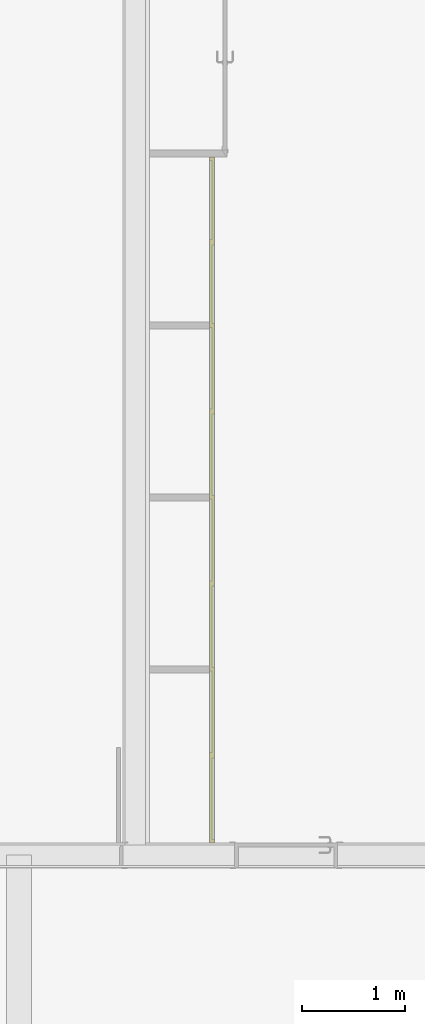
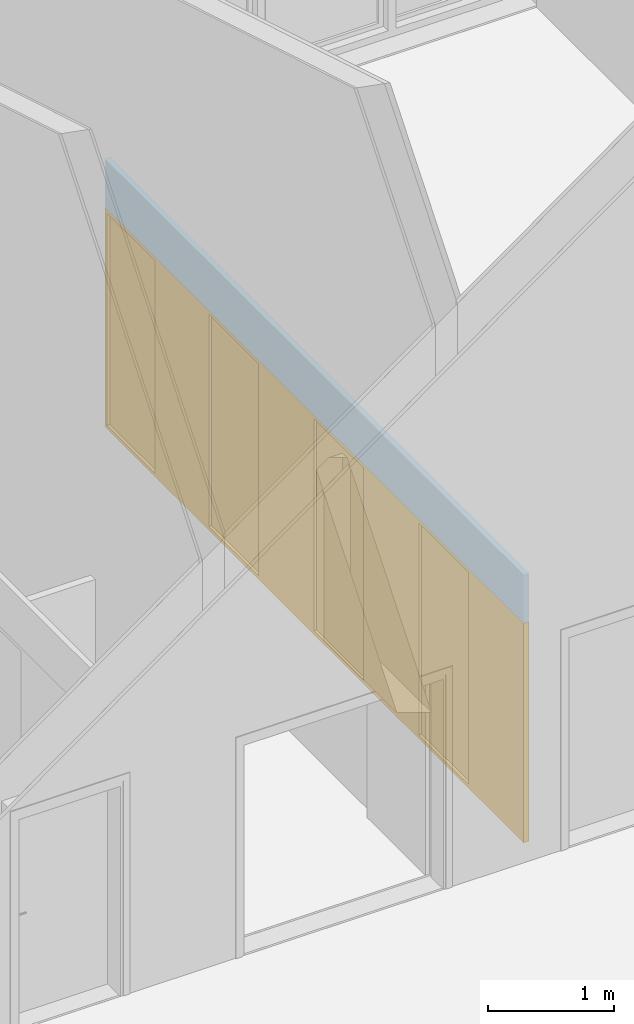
# One storey, part 9 of 34: 1 window, 1 opening, plus 1 element that does not belong to this part.
"""IFC2X3 building model written with IfcOpenShell, lengths in metres."""

from ifc_helpers import new_model, entity, si_unit, converted_unit, derived_unit, money_unit, direction, frame, origin_with_axes, origin_2d_with_axis, place, context, subcontext, project, spatial, polyline, rectangle, outline, extrude, faceted_brep, material, layer, layer_set, layer_usage, type_object, element, fill, save


model = new_model("IFC2X3")

# Units and contexts
model_context = context("Model", 3, precision=1e-05, world=origin_with_axes(), true_north=direction((0.0, 1.0)))
body_context = subcontext(model_context, "Body", "Model", "MODEL_VIEW")
ifc_project = project(units=[si_unit("LENGTHUNIT", "METRE"), si_unit("AREAUNIT", "SQUARE_METRE"), si_unit("VOLUMEUNIT", "CUBIC_METRE"), converted_unit("PLANEANGLEUNIT", "DEGREE", entity("IfcPlaneAngleMeasure", 0.0174532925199), si_unit("PLANEANGLEUNIT", "RADIAN"), dimensions=[0, 0, 0, 0, 0, 0, 0]), money_unit("CHF"), converted_unit("TIMEUNIT", "Year", entity("IfcTimeMeasure", 31556926.0), si_unit("TIMEUNIT", "SECOND"), dimensions=[0, 0, 1, 0, 0, 0, 0]), si_unit("MASSUNIT", "GRAM", prefix="KILO"), si_unit("THERMODYNAMICTEMPERATUREUNIT", "DEGREE_CELSIUS"), si_unit("LUMINOUSINTENSITYUNIT", "LUMEN"), si_unit("ENERGYUNIT", "JOULE", prefix="MEGA"), derived_unit("THERMALCONDUCTANCEUNIT", [(si_unit("POWERUNIT", "WATT"), 1), (si_unit("LENGTHUNIT", "METRE"), -1), (si_unit("THERMODYNAMICTEMPERATUREUNIT", "KELVIN"), -1)]), derived_unit("SPECIFICHEATCAPACITYUNIT", [(si_unit("ENERGYUNIT", "JOULE"), 1), (si_unit("MASSUNIT", "GRAM", prefix="KILO"), -1), (si_unit("THERMODYNAMICTEMPERATUREUNIT", "KELVIN"), -1)]), derived_unit("MASSDENSITYUNIT", [(si_unit("MASSUNIT", "GRAM", prefix="KILO"), 1), (si_unit("VOLUMEUNIT", "CUBIC_METRE"), -1)])], contexts=[model_context])

# Site, building, storey
site_placement = place(None, origin_with_axes())
site = spatial("IfcSite", under=ifc_project, at=site_placement, Name="Site", CompositionType="ELEMENT")
building_placement = place(site_placement, origin_with_axes())
building = spatial("IfcBuilding", under=site, at=building_placement, Name="Bâtiment", CompositionType="ELEMENT")
storey_placement = place(building_placement, origin_with_axes())
storey = spatial("IfcBuildingStorey", under=building, at=storey_placement, Name="Rez-de-chaussée", CompositionType="ELEMENT", Elevation=0.0)

# Wall, opening, window
ifc_material_1 = material(Name="Finition int - Plaque de plâtre")
ifc_layer_1 = layer(ifc_material_1, 0.013, ventilated="UNKNOWN")
ifc_material_2 = material(Name="Isolation - Laine de verre")
ifc_layer_2 = layer(ifc_material_2, 0.024, ventilated="UNKNOWN")
ifc_layer_3 = layer(ifc_material_1, 0.013, ventilated="UNKNOWN")
ifc_layer_set = layer_set([ifc_layer_1, ifc_layer_2, ifc_layer_3], Name="Cloison 50")
ifc_layer_usage = layer_usage(ifc_layer_set, "AXIS2", "NEGATIVE", 0.05)
wall_type = type_object("IfcWallType", Name="Cloison 50 50", PredefinedType="NOTDEFINED")
wall_placement = place(storey_placement, frame((26.1994697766, 21.78, 0.0), z_axis=(0.0, 0.0, 1.0), x_axis=(0.0, -1.0, 0.0)))
wall = element("IfcWallStandardCase", 1, at=wall_placement, inside=storey, type_object=wall_type, material=ifc_layer_usage, Name="MUR_EXT-006", context=body_context, shape_type="SweptSolid", body=[
    extrude(outline(polyline([(0.0, 0.0), (6.66, 0.0), (6.66, 0.05), (0.0, 0.05), (0.0, 0.0)])), origin_with_axes(), (0.0, 0.0, 1.0), 2.6),
])
opening_placement = place(wall_placement, frame((3.33, 0.0, 0.0), z_axis=(0.0, 0.0, 1.0), x_axis=(1.0, 0.0, 0.0)))
opening = element("IfcOpeningElement", 2, at=opening_placement, cuts=wall, Name="Portes placard couliisantes 4x2panneaux", context=body_context, shape_type="SweptSolid", body=[
    extrude(rectangle(XDim=6.66, YDim=2.13, at=origin_2d_with_axis()), frame((0.0, -0.05, 1.065), z_axis=(0.0, -1.0, 0.0), x_axis=(1.0, 0.0, 0.0)), (0.0, 0.0, -1.0), 0.15),
])
window_style = type_object("IfcWindowStyle", Name="Fenêtre horizontale à châssis multiples 26", ConstructionType="NOTDEFINED", OperationType="USERDEFINED", ParameterTakesPrecedence=False, Sizeable=False)
window_placement = place(opening_placement, frame((3.33, 0.0, 0.0), z_axis=(0.0, 0.0, 1.0), x_axis=(-1.0, 0.0, 0.0)))
window = element("IfcWindow", 3, at=window_placement, inside=storey, type_object=window_style, Name="Portes placard couliisantes 4x2panneaux", ObjectType="WINDOW", OverallHeight=2.13, OverallWidth=6.66, context=body_context, shape_type="Brep", body=[
    faceted_brep([(6.625, -0.05, 2.095), (6.66, -0.05, 2.095), (6.66, 0.0, 2.095), (6.625, 0.0, 2.095), (6.625, -0.05, 0.035), (6.66, -0.05, 0.035), (6.66, 0.0, 0.035), (6.625, 0.0, 0.035)], [[[0, 1, 2, 3]], [[0, 4, 5, 1]], [[1, 5, 6, 2]], [[3, 2, 6, 7]], [[4, 0, 3, 7]], [[5, 4, 7, 6]]]),
    faceted_brep([(0.035, -0.05, 0.035), (0.0, -0.05, 0.035), (0.0, 0.0, 0.035), (0.035, 0.0, 0.035), (0.035, -0.05, 2.095), (0.0, -0.05, 2.095), (0.0, 0.0, 2.095), (0.035, 0.0, 2.095)], [[[0, 1, 2, 3]], [[0, 4, 5, 1]], [[1, 5, 6, 2]], [[3, 2, 6, 7]], [[4, 0, 3, 7]], [[5, 4, 7, 6]]]),
    faceted_brep([(0.035, -0.05, 2.095), (0.0, -0.05, 2.095), (0.0, 0.0, 2.095), (0.035, 0.0, 2.095), (1.6675, -0.05, 2.095), (1.7025, -0.05, 2.095), (3.3375, -0.05, 2.095), (3.3725, -0.05, 2.095), (5.0075, -0.05, 2.095), (5.0425, -0.05, 2.095), (6.625, -0.05, 2.095), (6.66, -0.05, 2.095), (6.66, -0.05, 2.13), (0.0, -0.05, 2.13), (0.0, 0.0, 2.13), (6.66, 0.0, 2.13), (6.66, 0.0, 2.095), (6.625, 0.0, 2.095), (5.0425, 0.0, 2.095), (5.0075, 0.0, 2.095), (3.3725, 0.0, 2.095), (3.3375, 0.0, 2.095), (1.7025, 0.0, 2.095), (1.6675, 0.0, 2.095)], [[[0, 1, 2, 3]], [[0, 4, 5, 6, 7, 8, 9, 10, 11, 12, 13, 1]], [[1, 13, 14, 2]], [[3, 2, 14, 15, 16, 17, 18, 19, 20, 21, 22, 23]], [[4, 0, 3, 23]], [[5, 4, 23, 22]], [[6, 5, 22, 21]], [[7, 6, 21, 20]], [[8, 7, 20, 19]], [[9, 8, 19, 18]], [[10, 9, 18, 17]], [[11, 10, 17, 16]], [[12, 11, 16, 15]], [[13, 12, 15, 14]]]),
    faceted_brep([(1.6675, -0.05, 0.035), (1.7025, -0.05, 0.035), (1.7025, 0.0, 0.035), (1.6675, 0.0, 0.035), (0.035, -0.05, 0.035), (0.0, -0.05, 0.035), (0.0, -0.05, 0.0), (6.66, -0.05, 0.0), (6.66, -0.05, 0.035), (6.625, -0.05, 0.035), (5.0425, -0.05, 0.035), (5.0075, -0.05, 0.035), (3.3725, -0.05, 0.035), (3.3375, -0.05, 0.035), (3.3375, 0.0, 0.035), (3.3725, 0.0, 0.035), (5.0075, 0.0, 0.035), (5.0425, 0.0, 0.035), (6.625, 0.0, 0.035), (6.66, 0.0, 0.035), (6.66, 0.0, 0.0), (0.0, 0.0, 0.0), (0.0, 0.0, 0.035), (0.035, 0.0, 0.035)], [[[0, 1, 2, 3]], [[0, 4, 5, 6, 7, 8, 9, 10, 11, 12, 13, 1]], [[1, 13, 14, 2]], [[3, 2, 14, 15, 16, 17, 18, 19, 20, 21, 22, 23]], [[4, 0, 3, 23]], [[5, 4, 23, 22]], [[6, 5, 22, 21]], [[7, 6, 21, 20]], [[8, 7, 20, 19]], [[9, 8, 19, 18]], [[10, 9, 18, 17]], [[11, 10, 17, 16]], [[12, 11, 16, 15]], [[13, 12, 15, 14]]]),
    faceted_brep([(5.0075, -0.05, 0.035), (5.0075, -0.05, 2.095), (5.0075, 0.0, 2.095), (5.0075, 0.0, 0.035), (5.0425, -0.05, 0.035), (5.0425, -0.05, 2.095), (5.0425, 0.0, 2.095), (5.0425, 0.0, 0.035)], [[[0, 1, 2, 3]], [[0, 4, 5, 1]], [[1, 5, 6, 2]], [[3, 2, 6, 7]], [[4, 0, 3, 7]], [[5, 4, 7, 6]]]),
    faceted_brep([(3.3375, -0.05, 0.035), (3.3375, -0.05, 2.095), (3.3375, 0.0, 2.095), (3.3375, 0.0, 0.035), (3.3725, -0.05, 0.035), (3.3725, -0.05, 2.095), (3.3725, 0.0, 2.095), (3.3725, 0.0, 0.035)], [[[0, 1, 2, 3]], [[0, 4, 5, 1]], [[1, 5, 6, 2]], [[3, 2, 6, 7]], [[4, 0, 3, 7]], [[5, 4, 7, 6]]]),
    faceted_brep([(1.6675, -0.05, 0.035), (1.6675, -0.05, 2.095), (1.6675, 0.0, 2.095), (1.6675, 0.0, 0.035), (1.7025, -0.05, 0.035), (1.7025, -0.05, 2.095), (1.7025, 0.0, 2.095), (1.7025, 0.0, 0.035)], [[[0, 1, 2, 3]], [[0, 4, 5, 1]], [[1, 5, 6, 2]], [[3, 2, 6, 7]], [[4, 0, 3, 7]], [[5, 4, 7, 6]]]),
    faceted_brep([(5.85875, -0.025, 0.035), (5.0425, -0.025, 0.035), (5.0425, 0.0, 0.035), (5.85875, 0.0, 0.035), (5.85875, -0.025, 2.095), (5.0425, -0.025, 2.095), (5.0425, 0.0, 2.095), (5.85875, 0.0, 2.095)], [[[0, 1, 2, 3]], [[0, 4, 5, 1]], [[1, 5, 6, 2]], [[3, 2, 6, 7]], [[4, 0, 3, 7]], [[5, 4, 7, 6]]]),
    faceted_brep([(6.625, -0.05, 0.035), (5.80875, -0.05, 0.035), (5.80875, -0.025, 0.035), (6.625, -0.025, 0.035), (6.625, -0.05, 2.095), (5.80875, -0.05, 2.095), (5.80875, -0.025, 2.095), (6.625, -0.025, 2.095)], [[[0, 1, 2, 3]], [[0, 4, 5, 1]], [[1, 5, 6, 2]], [[3, 2, 6, 7]], [[4, 0, 3, 7]], [[5, 4, 7, 6]]]),
    faceted_brep([(4.215, -0.025, 0.035), (3.3725, -0.025, 0.035), (3.3725, 0.0, 0.035), (4.215, 0.0, 0.035), (4.215, -0.025, 2.095), (3.3725, -0.025, 2.095), (3.3725, 0.0, 2.095), (4.215, 0.0, 2.095)], [[[0, 1, 2, 3]], [[0, 4, 5, 1]], [[1, 5, 6, 2]], [[3, 2, 6, 7]], [[4, 0, 3, 7]], [[5, 4, 7, 6]]]),
    faceted_brep([(5.0075, -0.05, 0.035), (4.165, -0.05, 0.035), (4.165, -0.025, 0.035), (5.0075, -0.025, 0.035), (5.0075, -0.05, 2.095), (4.165, -0.05, 2.095), (4.165, -0.025, 2.095), (5.0075, -0.025, 2.095)], [[[0, 1, 2, 3]], [[0, 4, 5, 1]], [[1, 5, 6, 2]], [[3, 2, 6, 7]], [[4, 0, 3, 7]], [[5, 4, 7, 6]]]),
    faceted_brep([(2.545, -0.025, 0.035), (1.7025, -0.025, 0.035), (1.7025, 0.0, 0.035), (2.545, 0.0, 0.035), (2.545, -0.025, 2.095), (1.7025, -0.025, 2.095), (1.7025, 0.0, 2.095), (2.545, 0.0, 2.095)], [[[0, 1, 2, 3]], [[0, 4, 5, 1]], [[1, 5, 6, 2]], [[3, 2, 6, 7]], [[4, 0, 3, 7]], [[5, 4, 7, 6]]]),
    faceted_brep([(3.3375, -0.05, 0.035), (2.495, -0.05, 0.035), (2.495, -0.025, 0.035), (3.3375, -0.025, 0.035), (3.3375, -0.05, 2.095), (2.495, -0.05, 2.095), (2.495, -0.025, 2.095), (3.3375, -0.025, 2.095)], [[[0, 1, 2, 3]], [[0, 4, 5, 1]], [[1, 5, 6, 2]], [[3, 2, 6, 7]], [[4, 0, 3, 7]], [[5, 4, 7, 6]]]),
    faceted_brep([(0.87625, -0.025, 0.035), (0.035, -0.025, 0.035), (0.035, 0.0, 0.035), (0.87625, 0.0, 0.035), (0.87625, -0.025, 2.095), (0.035, -0.025, 2.095), (0.035, 0.0, 2.095), (0.87625, 0.0, 2.095)], [[[0, 1, 2, 3]], [[0, 4, 5, 1]], [[1, 5, 6, 2]], [[3, 2, 6, 7]], [[4, 0, 3, 7]], [[5, 4, 7, 6]]]),
    faceted_brep([(1.6675, -0.05, 0.035), (0.82625, -0.05, 0.035), (0.82625, -0.025, 0.035), (1.6675, -0.025, 0.035), (1.6675, -0.05, 2.095), (0.82625, -0.05, 2.095), (0.82625, -0.025, 2.095), (1.6675, -0.025, 2.095)], [[[0, 1, 2, 3]], [[0, 4, 5, 1]], [[1, 5, 6, 2]], [[3, 2, 6, 7]], [[4, 0, 3, 7]], [[5, 4, 7, 6]]]),
])
fill(opening, window)

save(model, "model.ifc")
